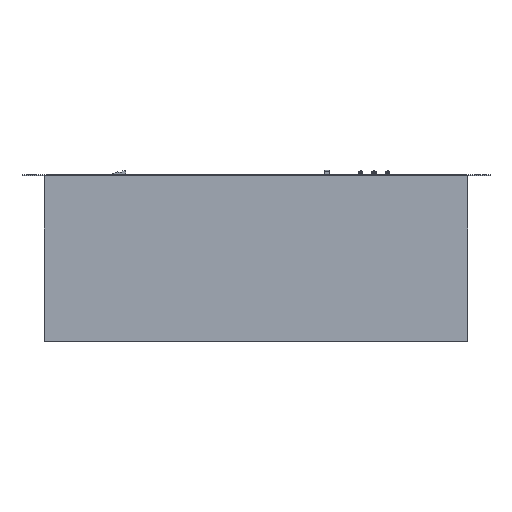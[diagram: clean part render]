
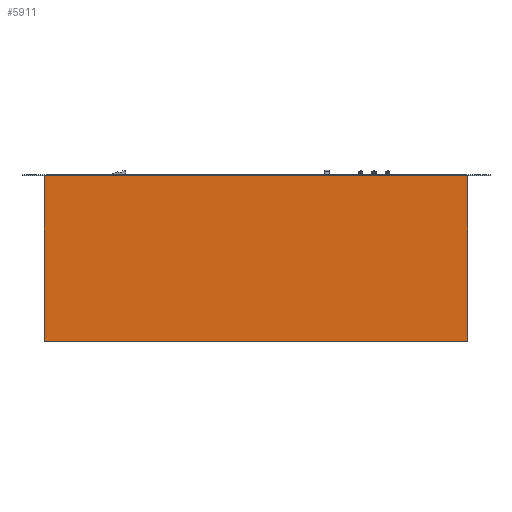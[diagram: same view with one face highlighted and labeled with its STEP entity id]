
A CAD part, top view. The second image highlights one B-rep face of the part: STEP entity #5911.
In plain terms, the highlighted planar face has unit normal (0, 0, 1).
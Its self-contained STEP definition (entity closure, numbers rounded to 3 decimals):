
#5911=ADVANCED_FACE('',(#81170),#81172,.T.);
#81170=FACE_BOUND('',#81171,.T.);
#81171=EDGE_LOOP('',(#137354,#137355,#137356,#137357));
#81172=PLANE('',#81173);
#81173=AXIS2_PLACEMENT_3D('',#81174,#81175,#81176);
#81174=CARTESIAN_POINT('',(220.,-1.,43.9));
#81175=DIRECTION('',(0.,0.,1.));
#81176=DIRECTION('',(-1.,0.,0.));
#137354=ORIENTED_EDGE('',*,*,#195517,.T.);
#137355=ORIENTED_EDGE('',*,*,#195518,.T.);
#137356=ORIENTED_EDGE('',*,*,#195451,.F.);
#137357=ORIENTED_EDGE('',*,*,#195515,.F.);
#195451=EDGE_CURVE('',#217528,#217530,#217531,.T.);
#195515=EDGE_CURVE('',#217636,#217528,#217638,.T.);
#195517=EDGE_CURVE('',#217636,#217640,#217641,.T.);
#195518=EDGE_CURVE('',#217640,#217530,#217642,.T.);
#217528=VERTEX_POINT('',#254364);
#217530=VERTEX_POINT('',#254368);
#217531=LINE('',#254369,#254370);
#217636=VERTEX_POINT('',#254600);
#217638=LINE('',#254604,#254605);
#217640=VERTEX_POINT('',#254610);
#217641=LINE('',#254611,#254612);
#217642=LINE('',#254614,#254615);
#254364=CARTESIAN_POINT('',(220.,-173.,43.9));
#254368=CARTESIAN_POINT('',(-220.,-173.,43.9));
#254369=CARTESIAN_POINT('',(220.,-173.,43.9));
#254370=VECTOR('',#254371,1.);
#254371=DIRECTION('',(-1.,0.,0.));
#254600=CARTESIAN_POINT('',(220.,-1.,43.9));
#254604=CARTESIAN_POINT('',(220.,-1.,43.9));
#254605=VECTOR('',#254606,1.);
#254606=DIRECTION('',(0.,-1.,0.));
#254610=CARTESIAN_POINT('',(-220.,-1.,43.9));
#254611=CARTESIAN_POINT('',(220.,-1.,43.9));
#254612=VECTOR('',#254613,1.);
#254613=DIRECTION('',(-1.,0.,0.));
#254614=CARTESIAN_POINT('',(-220.,-1.,43.9));
#254615=VECTOR('',#254616,1.);
#254616=DIRECTION('',(0.,-1.,0.));
